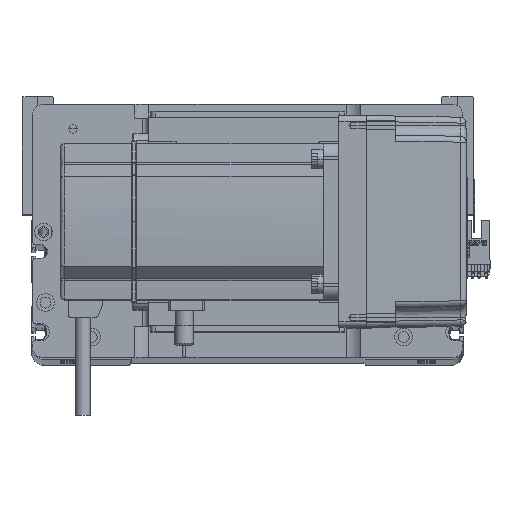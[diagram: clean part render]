
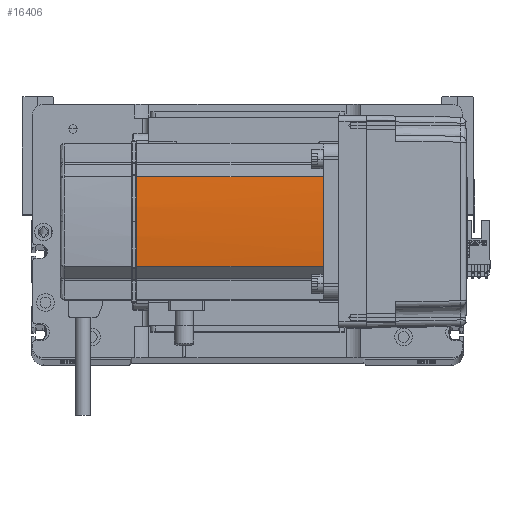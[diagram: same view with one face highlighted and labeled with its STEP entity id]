
A CAD part, top view. The second image highlights one B-rep face of the part: STEP entity #16406.
In plain terms, the highlighted cylindrical face has radius 270 mm (diameter 540 mm), a partial arc.
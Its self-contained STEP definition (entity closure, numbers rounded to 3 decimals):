
#2482 = CARTESIAN_POINT ( 'NONE',  ( -40., 0., 134. ) ) ;
#2569 = DIRECTION ( 'NONE',  ( 0., 0., -1. ) ) ;
#4718 = EDGE_CURVE ( 'NONE', #33738, #33603, #20418, .T. ) ;
#6130 = DIRECTION ( 'NONE',  ( 0., 0., -1. ) ) ;
#8355 = CARTESIAN_POINT ( 'NONE',  ( -39.042, 22.724, 134. ) ) ;
#12910 = DIRECTION ( 'NONE',  ( 1., 0., 0. ) ) ;
#13502 = ORIENTED_EDGE ( 'NONE', *, *, #22288, .T. ) ;
#14663 = CIRCLE ( 'NONE', #38773, 270. ) ;
#15087 = VERTEX_POINT ( 'NONE', #2482 ) ;
#15146 = DIRECTION ( 'NONE',  ( 0., 0., -1. ) ) ;
#15269 = CYLINDRICAL_SURFACE ( 'NONE', #15571, 270. ) ;
#15571 = AXIS2_PLACEMENT_3D ( 'NONE', #44912, #24115, #44717 ) ;
#16043 = ORIENTED_EDGE ( 'NONE', *, *, #4718, .T. ) ;
#16214 = CARTESIAN_POINT ( 'NONE',  ( -39.042, -22.724, 134. ) ) ;
#16406 = ADVANCED_FACE ( 'NONE', ( #17859 ), #15269, .T. ) ;
#17652 = AXIS2_PLACEMENT_3D ( 'NONE', #44406, #6130, #18672 ) ;
#17859 = FACE_OUTER_BOUND ( 'NONE', #21788, .T. ) ;
#18305 = CIRCLE ( 'NONE', #17652, 270. ) ;
#18672 = DIRECTION ( 'NONE',  ( 1., 0., 0. ) ) ;
#20418 = LINE ( 'NONE', #35043, #33567 ) ;
#21047 = DIRECTION ( 'NONE',  ( 0., 0., -1. ) ) ;
#21788 = EDGE_LOOP ( 'NONE', ( #53660, #30437, #16043, #33797, #13502 ) ) ;
#22288 = EDGE_CURVE ( 'NONE', #40136, #50998, #48894, .T. ) ;
#22998 = CIRCLE ( 'NONE', #49748, 270. ) ;
#24115 = DIRECTION ( 'NONE',  ( 0., 0., 1. ) ) ;
#30053 = CARTESIAN_POINT ( 'NONE',  ( -39.042, -22.724, 39. ) ) ;
#30437 = ORIENTED_EDGE ( 'NONE', *, *, #53088, .T. ) ;
#32698 = CARTESIAN_POINT ( 'NONE',  ( -39.042, -22.724, 0. ) ) ;
#33567 = VECTOR ( 'NONE', #15146, 1000. ) ;
#33603 = VERTEX_POINT ( 'NONE', #44972 ) ;
#33738 = VERTEX_POINT ( 'NONE', #8355 ) ;
#33797 = ORIENTED_EDGE ( 'NONE', *, *, #46736, .F. ) ;
#33837 = VECTOR ( 'NONE', #49535, 1000. ) ;
#35043 = CARTESIAN_POINT ( 'NONE',  ( -39.042, 22.724, 0. ) ) ;
#38773 = AXIS2_PLACEMENT_3D ( 'NONE', #42621, #21047, #12910 ) ;
#40136 = VERTEX_POINT ( 'NONE', #30053 ) ;
#40499 = CARTESIAN_POINT ( 'NONE',  ( 230., 0., 134. ) ) ;
#41348 = EDGE_CURVE ( 'NONE', #50998, #15087, #22998, .T. ) ;
#42621 = CARTESIAN_POINT ( 'NONE',  ( 230., 0., 39. ) ) ;
#44406 = CARTESIAN_POINT ( 'NONE',  ( 230., 0., 134. ) ) ;
#44717 = DIRECTION ( 'NONE',  ( 1., 0., 0. ) ) ;
#44912 = CARTESIAN_POINT ( 'NONE',  ( 230., 0., 0. ) ) ;
#44972 = CARTESIAN_POINT ( 'NONE',  ( -39.042, 22.724, 39. ) ) ;
#46736 = EDGE_CURVE ( 'NONE', #40136, #33603, #14663, .T. ) ;
#48410 = DIRECTION ( 'NONE',  ( 1., 0., 0. ) ) ;
#48894 = LINE ( 'NONE', #32698, #33837 ) ;
#49535 = DIRECTION ( 'NONE',  ( 0., 0., 1. ) ) ;
#49748 = AXIS2_PLACEMENT_3D ( 'NONE', #40499, #2569, #48410 ) ;
#50998 = VERTEX_POINT ( 'NONE', #16214 ) ;
#53088 = EDGE_CURVE ( 'NONE', #15087, #33738, #18305, .T. ) ;
#53660 = ORIENTED_EDGE ( 'NONE', *, *, #41348, .T. ) ;
